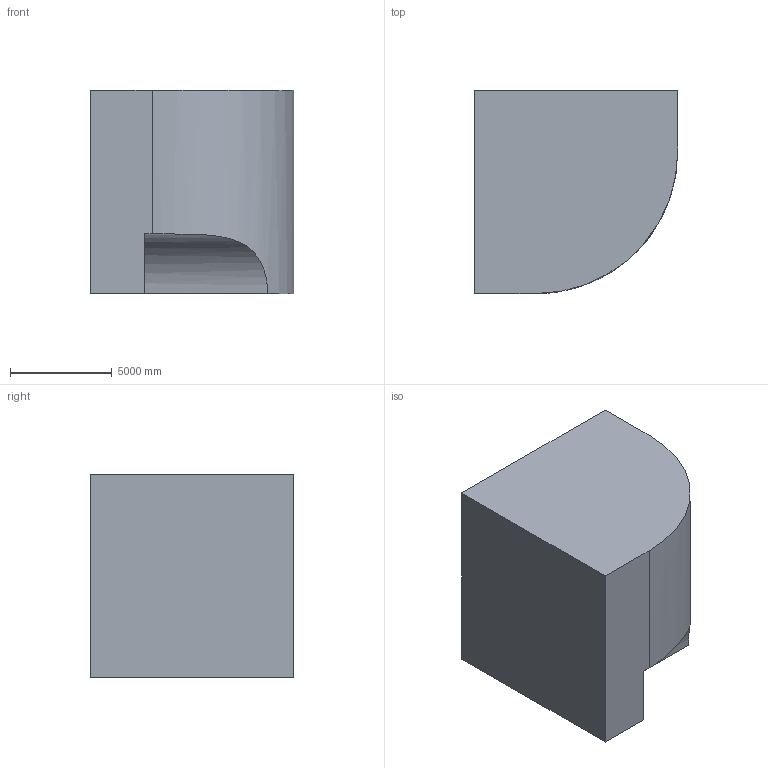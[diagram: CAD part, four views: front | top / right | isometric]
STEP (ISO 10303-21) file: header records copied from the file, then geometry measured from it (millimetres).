
FILE_DESCRIPTION (( 'STEP AP203' ), '1' );
FILE_NAME ('1099.STEP', '2022-08-18T12:45:23', ( 'user' ), ( '' ), 'SwSTEP 2.0', 'SolidWorks 2021', '' );
FILE_SCHEMA (( 'CONFIG_CONTROL_DESIGN' ));
Length unit declared in the file: centimetre
Products named in the file (1): 1099
Bounding box: 10000 x 10000 x 10000 mm (x, y, z)
Volume: 868698167401.7 mm3; surface area: 547739613.9 mm2
Topology: 1 solids, 1 shells, 9 faces, 21 edges, 14 vertices
Faces by surface type: plane 7, cylinder 2
Entity records: 448 total; most frequent: CARTESIAN_POINT 160, DIRECTION 43, ORIENTED_EDGE 42, EDGE_CURVE 21, LINE 17, VECTOR 17, VERTEX_POINT 14, AXIS2_PLACEMENT_3D 13
